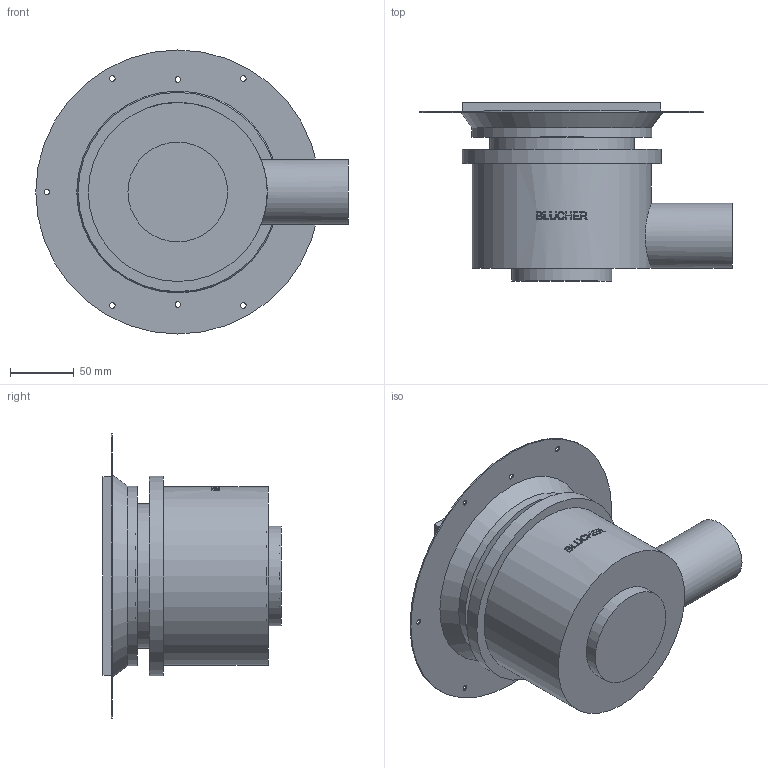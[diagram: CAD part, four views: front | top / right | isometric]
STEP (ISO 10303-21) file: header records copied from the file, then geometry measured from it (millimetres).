
FILE_DESCRIPTION((''),'2;1');
FILE_NAME('C:\Drawings\3D_CAD_Models\Blucher\Showers\BSS_Shower Drains with Square Top_Complete_091110\WebsiteFiles\3D\STEP\BSS-102.stp','2009-11-20T15:19:44',('hofmansp'),(''),'Autodesk Inventor 2010','Autodesk Inventor 2010','');
FILE_SCHEMA(('AUTOMOTIVE_DESIGN { 1 0 10303 214 1 1 1 1 }'));
Length unit declared in the file: inch
Products named in the file (1): BSS-102
Bounding box: 244.47 x 139.3 x 222.25 mm (x, y, z)
Volume: 324781.5 mm3; surface area: 313728.5 mm2
Topology: 1 solids, 1 shells, 357 faces, 1065 edges, 693 vertices
Faces by surface type: plane 287, bspline 42, cylinder 26, cone 2
Full cylindrical faces by diameter (mm): 48.8 x1, 50.8 x1, 76.008 x1, 78.008 x1, 109.5 x1, 111 x1, 111.5 x1, 113 x2, 138 x1, 138.6 x1, 140 x1, 140.6 x1, 155.575 x1, 156 x1, 222.25 x1
Entity records: 23012 total; most frequent: CARTESIAN_POINT 13241, ORIENTED_EDGE 2044, DIRECTION 1674, EDGE_CURVE 1022, VECTOR 772, LINE 772, VERTEX_POINT 676, EDGE_LOOP 504
